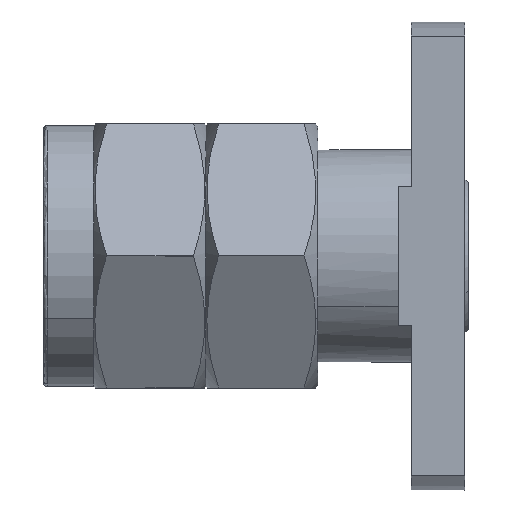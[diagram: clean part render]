
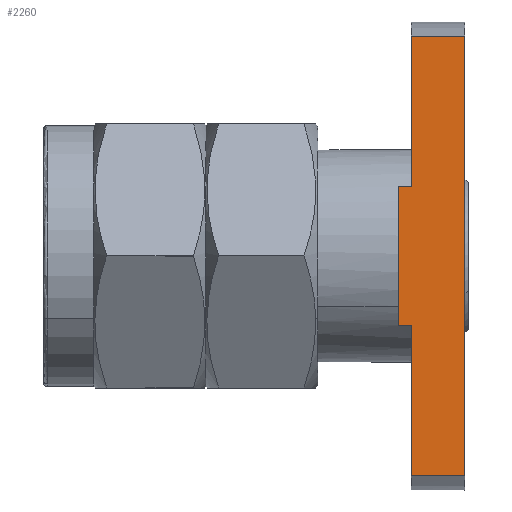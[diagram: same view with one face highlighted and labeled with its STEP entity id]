
A CAD part, front view. The second image highlights one B-rep face of the part: STEP entity #2260.
In plain terms, the highlighted planar face has unit normal (0, -1, 0).
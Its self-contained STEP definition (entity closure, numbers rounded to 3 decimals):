
#2025=CARTESIAN_POINT('Vertex',(11.,-2.4,-2.079)) ;
#2030=CARTESIAN_POINT('Line Origine',(5.532,-2.4,-2.079)) ;
#2034=CARTESIAN_POINT('Vertex',(10.6,-2.4,-2.079)) ;
#2090=CARTESIAN_POINT('Vertex',(11.,-2.4,2.079)) ;
#2110=CARTESIAN_POINT('Vertex',(10.6,-2.4,2.079)) ;
#2113=CARTESIAN_POINT('Line Origine',(5.532,-2.4,2.079)) ;
#2144=CARTESIAN_POINT('Vertex',(11.,-2.4,-6.576)) ;
#2149=CARTESIAN_POINT('Line Origine',(11.,-2.4,-4.327)) ;
#2214=CARTESIAN_POINT('Axis2P3D Location',(12.6,-2.4,8.491)) ;
#2219=CARTESIAN_POINT('Line Origine',(11.,-2.4,4.327)) ;
#2223=CARTESIAN_POINT('Vertex',(11.,-2.4,6.576)) ;
#2226=CARTESIAN_POINT('Line Origine',(10.6,-2.4,0.)) ;
#2231=CARTESIAN_POINT('Line Origine',(11.8,-2.4,-6.576)) ;
#2235=CARTESIAN_POINT('Vertex',(12.6,-2.4,-6.576)) ;
#2238=CARTESIAN_POINT('Line Origine',(12.6,-2.4,0.)) ;
#2242=CARTESIAN_POINT('Vertex',(12.6,-2.4,6.576)) ;
#2245=CARTESIAN_POINT('Line Origine',(11.8,-2.4,6.576)) ;
#2031=DIRECTION('Vector Direction',(1.,0.,0.)) ;
#2114=DIRECTION('Vector Direction',(1.,0.,0.)) ;
#2150=DIRECTION('Vector Direction',(0.,0.,-1.)) ;
#2215=DIRECTION('Axis2P3D Direction',(0.,1.,0.)) ;
#2216=DIRECTION('Axis2P3D XDirection',(0.,0.,-1.)) ;
#2220=DIRECTION('Vector Direction',(0.,0.,-1.)) ;
#2227=DIRECTION('Vector Direction',(0.,0.,-1.)) ;
#2232=DIRECTION('Vector Direction',(-1.,0.,0.)) ;
#2239=DIRECTION('Vector Direction',(0.,0.,-1.)) ;
#2246=DIRECTION('Vector Direction',(-1.,0.,0.)) ;
#2217=AXIS2_PLACEMENT_3D('Plane Axis2P3D',#2214,#2215,#2216) ;
#2251=ORIENTED_EDGE('',*,*,#2225,.T.) ;
#2252=ORIENTED_EDGE('',*,*,#2117,.T.) ;
#2253=ORIENTED_EDGE('',*,*,#2230,.T.) ;
#2254=ORIENTED_EDGE('',*,*,#2036,.F.) ;
#2255=ORIENTED_EDGE('',*,*,#2153,.T.) ;
#2256=ORIENTED_EDGE('',*,*,#2237,.F.) ;
#2257=ORIENTED_EDGE('',*,*,#2244,.F.) ;
#2258=ORIENTED_EDGE('',*,*,#2249,.T.) ;
#2032=VECTOR('Line Direction',#2031,1.) ;
#2115=VECTOR('Line Direction',#2114,1.) ;
#2151=VECTOR('Line Direction',#2150,1.) ;
#2221=VECTOR('Line Direction',#2220,1.) ;
#2228=VECTOR('Line Direction',#2227,1.) ;
#2233=VECTOR('Line Direction',#2232,1.) ;
#2240=VECTOR('Line Direction',#2239,1.) ;
#2247=VECTOR('Line Direction',#2246,1.) ;
#2260=ADVANCED_FACE('',(#2259),#2218,.F.) ;
#2036=EDGE_CURVE('',#2026,#2035,#2033,.F.) ;
#2117=EDGE_CURVE('',#2091,#2111,#2116,.F.) ;
#2153=EDGE_CURVE('',#2026,#2145,#2152,.T.) ;
#2225=EDGE_CURVE('',#2224,#2091,#2222,.T.) ;
#2230=EDGE_CURVE('',#2111,#2035,#2229,.T.) ;
#2237=EDGE_CURVE('',#2236,#2145,#2234,.T.) ;
#2244=EDGE_CURVE('',#2243,#2236,#2241,.T.) ;
#2249=EDGE_CURVE('',#2243,#2224,#2248,.T.) ;
#2250=EDGE_LOOP('',(#2251,#2252,#2253,#2254,#2255,#2256,#2257,#2258)) ;
#2259=FACE_OUTER_BOUND('',#2250,.T.) ;
#2033=LINE('Line',#2030,#2032) ;
#2116=LINE('Line',#2113,#2115) ;
#2152=LINE('Line',#2149,#2151) ;
#2222=LINE('Line',#2219,#2221) ;
#2229=LINE('Line',#2226,#2228) ;
#2234=LINE('Line',#2231,#2233) ;
#2241=LINE('Line',#2238,#2240) ;
#2248=LINE('Line',#2245,#2247) ;
#2218=PLANE('Plane',#2217) ;
#2026=VERTEX_POINT('',#2025) ;
#2035=VERTEX_POINT('',#2034) ;
#2091=VERTEX_POINT('',#2090) ;
#2111=VERTEX_POINT('',#2110) ;
#2145=VERTEX_POINT('',#2144) ;
#2224=VERTEX_POINT('',#2223) ;
#2236=VERTEX_POINT('',#2235) ;
#2243=VERTEX_POINT('',#2242) ;
